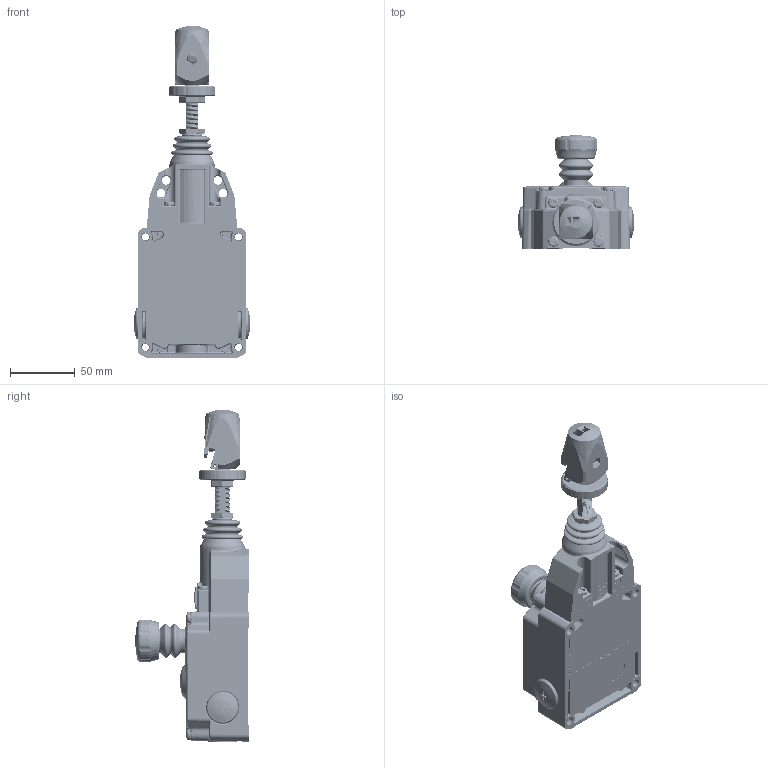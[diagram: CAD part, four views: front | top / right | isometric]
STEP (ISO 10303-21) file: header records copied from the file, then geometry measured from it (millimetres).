
FILE_DESCRIPTION((''),'2;1');
FILE_NAME('6012929087_SW0001','2013-06-03T',('Yvonne.Storm'),(''),'PRO/ENGINEER BY PARAMETRIC TECHNOLOGY CORPORATION, 2012360','PRO/ENGINEER BY PARAMETRIC TECHNOLOGY CORPORATION, 2012360','');
FILE_SCHEMA(('AUTOMOTIVE_DESIGN { 1 0 10303 214 1 1 1 1 }'));
Products named in the file (1): 6012929087_SW0001
Bounding box: 90.13 x 88 x 257 mm (x, y, z)
Volume: 247927.7 mm3; surface area: 148514.5 mm2
Topology: 4 solids, 5 shells, 5596 faces, 14944 edges, 9293 vertices
Faces by surface type: plane 2076, cylinder 1349, bspline 991, torus 547, cone 455, sphere 178
Entity records: 342590 total; most frequent: CARTESIAN_POINT 122586, ORIENTED_EDGE 29876, DIRECTION 24713, PRESENTATION_STYLE_ASSIGNMENT 20491, STYLED_ITEM 14948, CURVE_STYLE 14938, EDGE_CURVE 14938, VERTEX_POINT 9293
